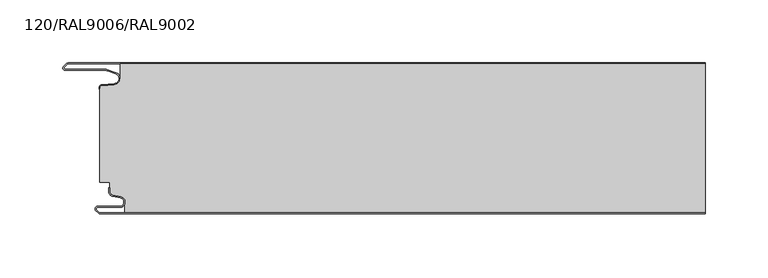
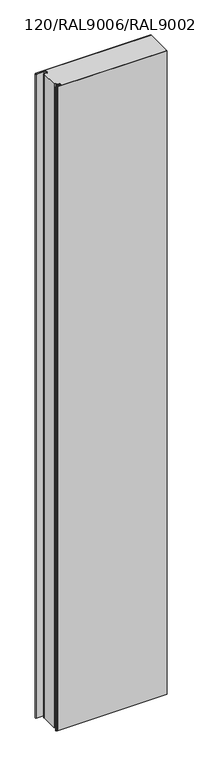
"""IFC4 building model written with IfcOpenShell, lengths in millimetres: plate geometry, TR_C_V_FHL_Panel_cut_GROOVE : 120/RAL9006/RAL9002."""

from ifc_helpers import new_model, si_unit, point, frame_2d, origin, origin_with_axes, place, context, project, spatial, polyline, circle_curve, trimmed, segment, composite_curve, outline, extrude, source, transform, mapped, element, save


def plate_120_ral9006_ral9002_c20b192a(model_context):
    return source(origin(), model_context, "Body", "SweptSolid", [
        extrude(outline(composite_curve([segment(polyline([(-233.2999998, -99.0), (-232.4999998, -99.0), (-232.4999998, -102.3925589)]), True, "CONTINUOUS"), segment(trimmed(circle_curve(frame_2d((-229.5499998, -102.3925589)), 2.95), [point((-232.4999998, -102.3925589))], [point((-230.062262, -105.2977418))], True, "CARTESIAN"), True, "CONTINUOUS"), segment(polyline([(-230.062262, -105.2977418), (-224.0119951, -106.364567)]), True, "CONTINUOUS"), segment(trimmed(circle_curve(frame_2d((-224.7499998, -110.55)), 4.25), [point((-224.0119951, -106.364567))], [point((-224.7499998, -114.8))], False, "CARTESIAN"), True, "CONTINUOUS"), segment(polyline([(-224.7499998, -114.8), (-242.3499998, -114.8)]), True, "CONTINUOUS"), segment(trimmed(circle_curve(frame_2d((-242.3499998, -115.95)), 1.15), [point((-242.3499998, -114.8))], [point((-243.1631726, -116.7631728))], True, "CARTESIAN"), True, "CONTINUOUS"), segment(polyline([(-243.1631726, -116.7631728), (-241.2974872, -118.6288582)]), True, "CONTINUOUS"), segment(trimmed(circle_curve(frame_2d((-239.918629, -117.25)), 1.95), [point((-241.2974872, -118.6288582))], [point((-239.918629, -119.2))], True, "CARTESIAN"), True, "CONTINUOUS"), segment(polyline([(-239.918629, -119.2), (240.3999998, -119.2), (240.3999998, -120.0), (-239.918629, -120.0)]), True, "CONTINUOUS"), segment(trimmed(circle_curve(frame_2d((-239.918629, -117.25)), 2.75), [point((-239.918629, -120.0))], [point((-241.8631726, -119.1945436))], False, "CARTESIAN"), True, "CONTINUOUS"), segment(polyline([(-241.8631726, -119.1945436), (-243.7288581, -117.3288582)]), True, "CONTINUOUS"), segment(trimmed(circle_curve(frame_2d((-242.3499998, -115.95)), 1.95), [point((-243.7288581, -117.3288582))], [point((-242.3499998, -114.0))], False, "CARTESIAN"), True, "CONTINUOUS"), segment(polyline([(-242.3499998, -114.0), (-224.7499998, -114.0)]), True, "CONTINUOUS"), segment(trimmed(circle_curve(frame_2d((-224.7499998, -110.55)), 3.45), [point((-224.7499998, -114.0))], [point((-224.1509136, -107.1524133))], True, "CARTESIAN"), True, "CONTINUOUS"), segment(polyline([(-224.1509136, -107.1524133), (-230.2011805, -106.085588)]), True, "CONTINUOUS"), segment(trimmed(circle_curve(frame_2d((-229.5499998, -102.3925589)), 3.75), [point((-230.2011805, -106.085588))], [point((-233.2999998, -102.3925589))], False, "CARTESIAN"), True, "CONTINUOUS"), segment(polyline([(-233.2999998, -102.3925589), (-233.2999998, -99.0)]), True, "CONTINUOUS")], self_intersect=False)), origin_with_axes(), (0.0, 0.0, 1.0), 2980.0),
        extrude(outline(composite_curve([segment(polyline([(-220.4999998, -119.2), (-220.4999998, -110.55)]), True, "CONTINUOUS"), segment(trimmed(circle_curve(frame_2d((-224.7499998, -110.55)), 4.25), [point((-220.4999998, -110.55))], [point((-224.0119951, -106.364567))], True, "CARTESIAN"), True, "CONTINUOUS"), segment(polyline([(-224.0119951, -106.364567), (-230.062262, -105.2977418)]), True, "CONTINUOUS"), segment(trimmed(circle_curve(frame_2d((-229.5499998, -102.3925589)), 2.95), [point((-230.062262, -105.2977418))], [point((-232.4999998, -102.3925589))], False, "CARTESIAN"), True, "CONTINUOUS"), segment(polyline([(-232.4999998, -102.3925589), (-232.4999998, -94.86), (-240.3999998, -94.86), (-240.3999998, -20.8), (-240.2999998, -19.7908279)]), True, "CONTINUOUS"), segment(trimmed(circle_curve(frame_2d((-238.5999998, -19.7908279)), 1.7), [point((-240.2999998, -19.7908279))], [point((-238.7481646, -18.0972969))], False, "CARTESIAN"), True, "CONTINUOUS"), segment(polyline([(-238.7481646, -18.0972969), (-228.8735883, -17.2333835)]), True, "CONTINUOUS"), segment(trimmed(circle_curve(frame_2d((-229.3006514, -12.3520294)), 4.9), [point((-228.8735883, -17.2333835))], [point((-224.4006514, -12.3520294))], True, "CARTESIAN"), True, "CONTINUOUS"), segment(polyline([(-224.4006514, -12.3520294), (-224.4006514, -0.8), (240.3999998, -0.8), (240.3999998, -119.2), (-220.4999998, -119.2)]), True, "CONTINUOUS")], self_intersect=False)), origin_with_axes(), (0.0, 0.0, 1.0), 2980.0),
        extrude(outline(composite_curve([segment(trimmed(circle_curve(frame_2d((-265.5006168, -2.7)), 2.7), [point((-267.4752718, -0.8586044))], [point((-265.5006168, 0.0))], False, "CARTESIAN"), True, "CONTINUOUS"), segment(polyline([(-265.5006168, 0.0), (240.3999998, 0.0), (240.3999998, -0.8), (-265.5006168, -0.8)]), True, "CONTINUOUS"), segment(trimmed(circle_curve(frame_2d((-265.5006168, -2.7)), 1.9), [point((-265.5006168, -0.8))], [point((-266.8901888, -1.4042031))], True, "CARTESIAN"), True, "CONTINUOUS"), segment(polyline([(-266.8901888, -1.4042031), (-268.7044889, -3.3498018)]), True, "CONTINUOUS"), segment(trimmed(circle_curve(frame_2d((-267.8999998, -4.1)), 1.1), [point((-268.7044889, -3.3498018))], [point((-267.8999998, -5.2))], True, "CARTESIAN"), True, "CONTINUOUS"), segment(polyline([(-267.8999998, -5.2), (-235.5732716, -5.2)]), True, "CONTINUOUS"), segment(trimmed(circle_curve(frame_2d((-235.5732716, -8.5)), 3.3), [point((-235.5732716, -5.2))], [point((-234.4988967, -5.3797887))], False, "CARTESIAN"), True, "CONTINUOUS"), segment(polyline([(-234.4988967, -5.3797887), (-227.7053674, -7.7189884)]), True, "CONTINUOUS"), segment(trimmed(circle_curve(frame_2d((-229.3006514, -12.3520294)), 4.9), [point((-227.7053674, -7.7189884))], [point((-228.8735883, -17.2333835))], False, "CARTESIAN"), True, "CONTINUOUS"), segment(polyline([(-228.8735883, -17.2333835), (-238.7481646, -18.0972969)]), True, "CONTINUOUS"), segment(trimmed(circle_curve(frame_2d((-238.5999998, -19.7908279)), 1.7), [point((-238.7481646, -18.0972969))], [point((-240.2999998, -19.7908279))], True, "CARTESIAN"), True, "CONTINUOUS"), segment(polyline([(-240.2999998, -19.7908279), (-240.2999998, -20.8), (-241.0999998, -20.8), (-241.0999998, -19.7908279)]), True, "CONTINUOUS"), segment(trimmed(circle_curve(frame_2d((-238.5999998, -19.7908279)), 2.5), [point((-241.0999998, -19.7908279))], [point((-238.8178892, -17.3003412))], False, "CARTESIAN"), True, "CONTINUOUS"), segment(polyline([(-238.8178892, -17.3003412), (-228.9433129, -16.4364277)]), True, "CONTINUOUS"), segment(trimmed(circle_curve(frame_2d((-229.3006514, -12.3520294)), 4.1), [point((-228.9433129, -16.4364277))], [point((-227.965822, -8.4754033))], True, "CARTESIAN"), True, "CONTINUOUS"), segment(polyline([(-227.965822, -8.4754033), (-234.7593512, -6.1362036)]), True, "CONTINUOUS"), segment(trimmed(circle_curve(frame_2d((-235.5732716, -8.5)), 2.5), [point((-234.7593512, -6.1362036))], [point((-235.5732716, -6.0))], True, "CARTESIAN"), True, "CONTINUOUS"), segment(polyline([(-235.5732716, -6.0), (-267.8999998, -6.0)]), True, "CONTINUOUS"), segment(trimmed(circle_curve(frame_2d((-267.8999998, -4.1)), 1.9), [point((-267.8999998, -6.0))], [point((-269.2895719, -2.8042031))], False, "CARTESIAN"), True, "CONTINUOUS"), segment(polyline([(-269.2895719, -2.8042031), (-267.4752718, -0.8586044)]), True, "CONTINUOUS")], self_intersect=False)), origin_with_axes(), (0.0, 0.0, 1.0), 2980.0),
    ])


if __name__ == "__main__":
    model = new_model("IFC4")
    model_context = context("Model", 3, world=origin())
    ifc_project = project(units=[si_unit("LENGTHUNIT", "METRE", prefix="MILLI")], contexts=[model_context])
    site = spatial("IfcSite", under=ifc_project)
    building = spatial("IfcBuilding", under=site)
    placement = place(None, origin())
    plate_120_ral9006_ral9002_shape = plate_120_ral9006_ral9002_c20b192a(model_context)
    element("IfcPlate", 1, ObjectType="TR_C_V_FHL_Panel_cut_GROOVE : 120/RAL9006/RAL9002", at=placement, inside=building, context=model_context, shape_type="MappedRepresentation", body=[
        mapped(plate_120_ral9006_ral9002_shape, transform((0.0, 0.0, 0.0), x_axis=(1.0, 0.0, 0.0), y_axis=(0.0, 1.0, 0.0), z_axis=(0.0, 0.0, 1.0))),
    ])
    save(model, "model.ifc")
